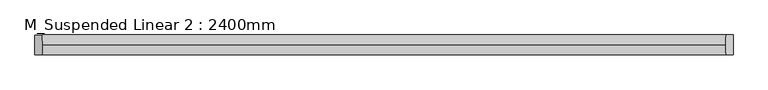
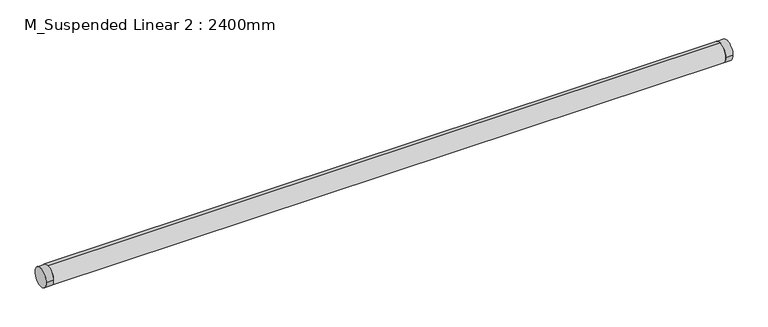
"""IFC4 building model written with IfcOpenShell, lengths in millimetres: light fixture geometry, M_Suspended Linear 2 : 2400mm."""

from ifc_helpers import new_model, si_unit, point, frame, frame_2d, origin, place, context, project, spatial, polyline, circle_curve, trimmed, segment, composite_curve, outline, extrude, source, transform, mapped, element, save


def m_suspended_linear_2_2400mm_e0d50ca2(model_context):
    return source(origin(), model_context, "Body", "SweptSolid", [
        extrude(outline(polyline([(1762.1084676, 25.4), (1762.1084676, -25.4), (-1761.9, -25.4), (-1761.9, 25.4), (1762.1084676, 25.4)])), frame((0.0, 0.0, 2412.7), z_axis=(0.0, 0.0, 1.0), x_axis=(1.0, 0.0, 0.0)), (0.0, 0.0, 1.0), 12.7),
        extrude(outline(composite_curve([segment(trimmed(circle_curve(frame_2d((0.0, 2450.8)), 50.8), [point((-50.8, 2450.8))], [point((50.8, 2450.8))], False, "CARTESIAN"), True, "CONTINUOUS"), segment(trimmed(circle_curve(frame_2d((0.0, 2450.8)), 50.8), [point((50.8, 2450.8))], [point((-50.8, 2450.8))], False, "CARTESIAN"), True, "CONTINUOUS")], self_intersect=False)), frame((1762.1084676, 0.0, 0.0), z_axis=(1.0, 0.0, 0.0), x_axis=(0.0, 1.0, 0.0)), (0.0, 0.0, 1.0), 37.8915324),
        extrude(outline(composite_curve([segment(trimmed(circle_curve(frame_2d((-1.1165929, 2450.8)), 50.81227), [point((49.6956771, 2450.8))], [point((-51.9288628, 2450.8))], False, "CARTESIAN"), True, "CONTINUOUS"), segment(trimmed(circle_curve(frame_2d((-1.1165929, 2450.8)), 50.81227), [point((-51.9288628, 2450.8))], [point((49.6956771, 2450.8))], False, "CARTESIAN"), True, "CONTINUOUS")], self_intersect=False)), frame((-1800.0, 0.0, 0.0), z_axis=(1.0, 0.0, 0.0), x_axis=(0.0, 1.0, 0.0)), (0.0, 0.0, 1.0), 38.1),
        extrude(outline(composite_curve([segment(trimmed(circle_curve(frame_2d((0.0, 2450.8)), 50.8), [point((-25.4, 2406.8059095))], [point((0.0, 2501.6))], False, "CARTESIAN"), True, "CONTINUOUS"), segment(trimmed(circle_curve(frame_2d((0.0, 2450.8)), 50.8), [point((0.0, 2501.6))], [point((25.4, 2406.8059095))], False, "CARTESIAN"), True, "CONTINUOUS"), segment(polyline([(25.4, 2406.8059095), (25.4, 2438.1), (-25.4, 2438.1), (-25.4, 2406.8059095)]), True, "CONTINUOUS")], self_intersect=False)), frame((-1761.9, 0.0, 0.0), z_axis=(1.0, 0.0, 0.0), x_axis=(0.0, 1.0, 0.0)), (0.0, 0.0, 1.0), 3524.0084676),
        extrude(outline(composite_curve([segment(trimmed(circle_curve(frame_2d((-1723.8883785, 0.0)), 25.4), [point((-1749.2883785, 0.0))], [point((-1698.4883785, 0.0))], False, "CARTESIAN"), True, "CONTINUOUS"), segment(trimmed(circle_curve(frame_2d((-1723.8883785, 0.0)), 25.4), [point((-1698.4883785, 0.0))], [point((-1749.2883785, 0.0))], False, "CARTESIAN"), True, "CONTINUOUS")], self_intersect=False)), frame((0.0, 0.0, 2425.7), z_axis=(0.0, 0.0, 1.0), x_axis=(1.0, 0.0, 0.0)), (0.0, 0.0, 1.0), 12.7),
        extrude(outline(composite_curve([segment(trimmed(circle_curve(frame_2d((1723.8, 0.0)), 25.4), [point((1698.4, 0.0))], [point((1749.2, 0.0))], False, "CARTESIAN"), True, "CONTINUOUS"), segment(trimmed(circle_curve(frame_2d((1723.8, 0.0)), 25.4), [point((1749.2, 0.0))], [point((1698.4, 0.0))], False, "CARTESIAN"), True, "CONTINUOUS")], self_intersect=False)), frame((0.0, 0.0, 2425.7), z_axis=(0.0, 0.0, 1.0), x_axis=(1.0, 0.0, 0.0)), (0.0, 0.0, 1.0), 12.7),
        extrude(outline(composite_curve([segment(trimmed(circle_curve(frame_2d((-1723.8, 0.0)), 3.175), [point((-1723.8, 3.175))], [point((-1723.8, -3.175))], False, "CARTESIAN"), True, "CONTINUOUS"), segment(trimmed(circle_curve(frame_2d((-1723.8, 0.0)), 3.175), [point((-1723.8, -3.175))], [point((-1723.8, 3.175))], False, "CARTESIAN"), True, "CONTINUOUS")], self_intersect=False)), frame((0.0, 0.0, 2425.7), z_axis=(0.0, 0.0, 1.0), x_axis=(1.0, 0.0, 0.0)), (0.0, 0.0, 1.0), 63.2),
        extrude(outline(composite_curve([segment(trimmed(circle_curve(frame_2d((1723.8, 0.0)), 3.175), [point((1723.8, 3.175))], [point((1723.8, -3.175))], False, "CARTESIAN"), True, "CONTINUOUS"), segment(trimmed(circle_curve(frame_2d((1723.8, 0.0)), 3.175), [point((1723.8, -3.175))], [point((1723.8, 3.175))], False, "CARTESIAN"), True, "CONTINUOUS")], self_intersect=False)), frame((0.0, 0.0, 2425.7), z_axis=(0.0, 0.0, 1.0), x_axis=(1.0, 0.0, 0.0)), (0.0, 0.0, 1.0), 63.2),
    ])


if __name__ == "__main__":
    model = new_model("IFC4")
    model_context = context("Model", 3, world=origin())
    ifc_project = project(units=[si_unit("LENGTHUNIT", "METRE", prefix="MILLI")], contexts=[model_context])
    site = spatial("IfcSite", under=ifc_project)
    building = spatial("IfcBuilding", under=site)
    placement = place(None, origin())
    m_suspended_linear_2_2400mm_shape = m_suspended_linear_2_2400mm_e0d50ca2(model_context)
    element("IfcLightFixture", 1, ObjectType="M_Suspended Linear 2 : 2400mm", at=placement, inside=building, context=model_context, shape_type="MappedRepresentation", body=[
        mapped(m_suspended_linear_2_2400mm_shape, transform((0.0, 0.0, 0.0), x_axis=(1.0, 0.0, 0.0), y_axis=(0.0, 1.0, 0.0), z_axis=(0.0, 0.0, 1.0))),
    ])
    save(model, "model.ifc")
